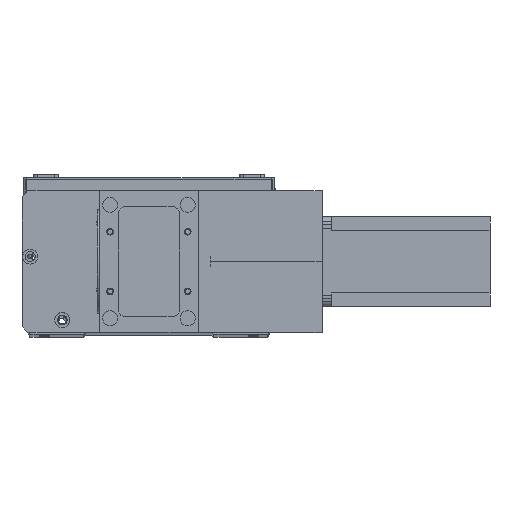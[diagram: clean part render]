
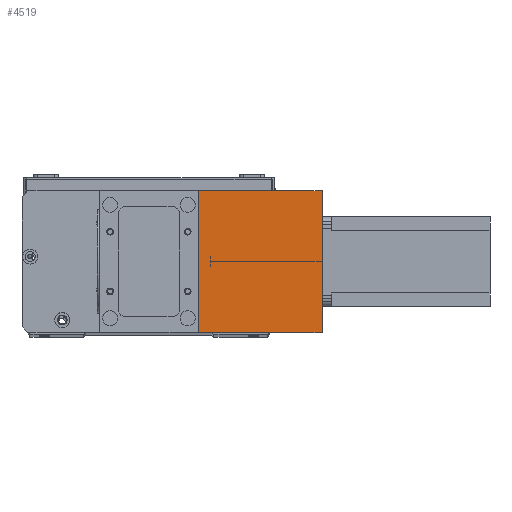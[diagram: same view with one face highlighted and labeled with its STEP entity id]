
A CAD part, top view. The second image highlights one B-rep face of the part: STEP entity #4519.
In plain terms, the highlighted planar face has unit normal (0, 0, 1) as drawn and (1, 0, 0) by its records, which use the part's own axes.
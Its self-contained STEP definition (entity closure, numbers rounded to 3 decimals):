
#313 = CARTESIAN_POINT ( 'NONE',  ( 82., 95., 83. ) ) ;
#720 = DIRECTION ( 'NONE',  ( 0., 0., -1. ) ) ;
#1612 = FACE_OUTER_BOUND ( 'NONE', #4245, .T. ) ;
#2505 = DIRECTION ( 'NONE',  ( 0., 0., 1. ) ) ;
#3323 = AXIS2_PLACEMENT_3D ( 'NONE', #8180, #8231, #2505 ) ;
#4245 = EDGE_LOOP ( 'NONE', ( #5425, #17560, #16775, #24823 ) ) ;
#4519 = ADVANCED_FACE ( 'NONE', ( #1612 ), #28354, .F. ) ;
#5425 = ORIENTED_EDGE ( 'NONE', *, *, #15134, .T. ) ;
#5892 = VERTEX_POINT ( 'NONE', #9707 ) ;
#6095 = CARTESIAN_POINT ( 'NONE',  ( 82., 0., 0. ) ) ;
#6787 = DIRECTION ( 'NONE',  ( 0., 1., 0. ) ) ;
#8180 = CARTESIAN_POINT ( 'NONE',  ( 82., 0., 83. ) ) ;
#8231 = DIRECTION ( 'NONE',  ( -1., 0., 0. ) ) ;
#9707 = CARTESIAN_POINT ( 'NONE',  ( 82., 95., 0. ) ) ;
#13077 = CARTESIAN_POINT ( 'NONE',  ( 82., 0., 83. ) ) ;
#14799 = CARTESIAN_POINT ( 'NONE',  ( 82., 0., 83. ) ) ;
#14843 = EDGE_CURVE ( 'NONE', #14974, #19859, #22974, .T. ) ;
#14974 = VERTEX_POINT ( 'NONE', #14799 ) ;
#15134 = EDGE_CURVE ( 'NONE', #19859, #5892, #21940, .T. ) ;
#15220 = EDGE_CURVE ( 'NONE', #18117, #5892, #19846, .T. ) ;
#15958 = EDGE_CURVE ( 'NONE', #14974, #18117, #16837, .T. ) ;
#16775 = ORIENTED_EDGE ( 'NONE', *, *, #15958, .F. ) ;
#16837 = LINE ( 'NONE', #13077, #27025 ) ;
#17242 = CARTESIAN_POINT ( 'NONE',  ( 82., 95., 83. ) ) ;
#17560 = ORIENTED_EDGE ( 'NONE', *, *, #15220, .F. ) ;
#17575 = DIRECTION ( 'NONE',  ( 0., 1., 0. ) ) ;
#18117 = VERTEX_POINT ( 'NONE', #17242 ) ;
#18660 = CARTESIAN_POINT ( 'NONE',  ( 82., 0., 83. ) ) ;
#18866 = DIRECTION ( 'NONE',  ( 0., 0., -1. ) ) ;
#19846 = LINE ( 'NONE', #313, #24302 ) ;
#19859 = VERTEX_POINT ( 'NONE', #23769 ) ;
#20561 = VECTOR ( 'NONE', #6787, 1000. ) ;
#21940 = LINE ( 'NONE', #6095, #20561 ) ;
#22974 = LINE ( 'NONE', #18660, #27297 ) ;
#23769 = CARTESIAN_POINT ( 'NONE',  ( 82., 0., 0. ) ) ;
#24302 = VECTOR ( 'NONE', #720, 1000. ) ;
#24823 = ORIENTED_EDGE ( 'NONE', *, *, #14843, .T. ) ;
#27025 = VECTOR ( 'NONE', #17575, 1000. ) ;
#27297 = VECTOR ( 'NONE', #18866, 1000. ) ;
#28354 = PLANE ( 'NONE',  #3323 ) ;
